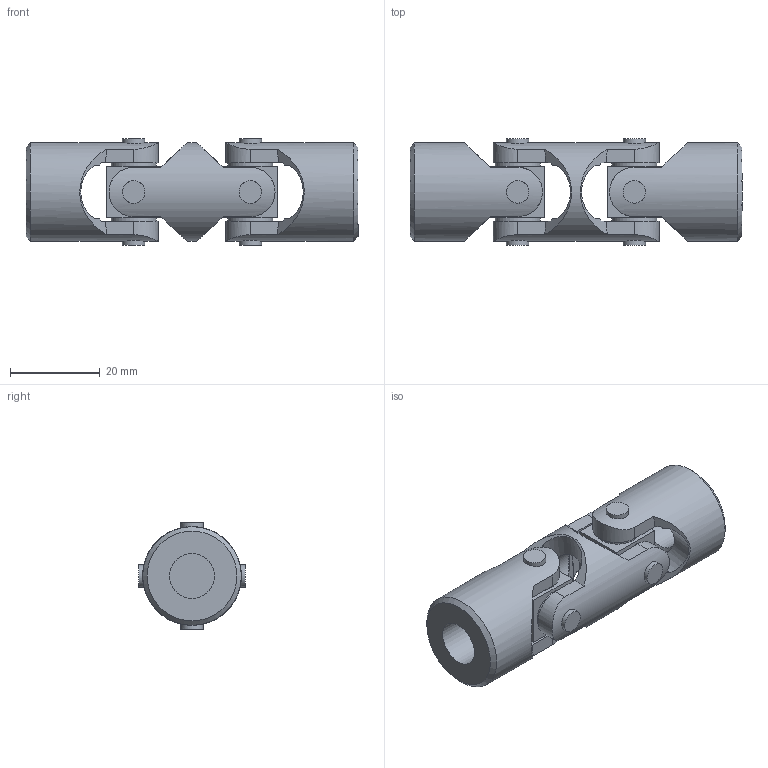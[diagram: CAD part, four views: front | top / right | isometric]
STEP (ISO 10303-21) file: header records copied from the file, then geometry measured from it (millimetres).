
FILE_DESCRIPTION(/* description */ (''),/* implementation_level */ '2;1');
FILE_NAME(/* name */ '\\SRV2016\Societa\Stefano\Disegni 3D\0Catalogo 3D\14Doppi XD\Ø22_03XD_SX0D1000.stp',/* time_stamp */ '2023-05-15T08:30:30+02:00',/* author */ ('acquisti'),/* organization */ (''),/* preprocessor_version */ 'ST-DEVELOPER v15.6',/* originating_system */ 'Autodesk Inventor 2015',/* authorisation */ '');
FILE_SCHEMA (('AUTOMOTIVE_DESIGN { 1 0 10303 214 3 1 1 }'));
Length unit declared in the file: millimetre
Products named in the file (4): 03X MOD; 03X SFE; 03X MOS; Ø22_03XD_SX0D1000
Assembly tree (5 placements, depth 2):
  Ø22_03XD_SX0D1000
    03X MOD
    03X SFE  x2
    03X MOS  x2
Bounding box: 74 x 23.8 x 23.8 mm (x, y, z)
Volume: 18580.4 mm3; surface area: 10124.2 mm2
Topology: 5 solids, 5 shells, 118 faces, 300 edges, 204 vertices
Faces by surface type: plane 62, cylinder 32, cone 20, torus 4
Full cylindrical faces by diameter (mm): 5 x8, 10 x10, 11.5 x3, 22 x3
Entity records: 2938 total; most frequent: CARTESIAN_POINT 1133, ORIENTED_EDGE 356, DIRECTION 334, EDGE_CURVE 178, AXIS2_PLACEMENT_3D 143, VERTEX_POINT 132, EDGE_LOOP 110, FACE_OUTER_BOUND 79
